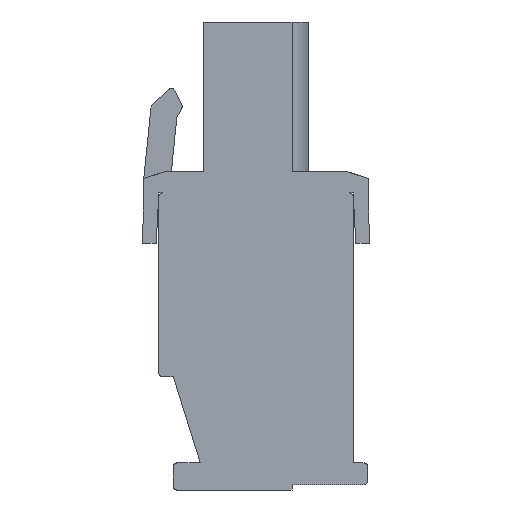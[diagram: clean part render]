
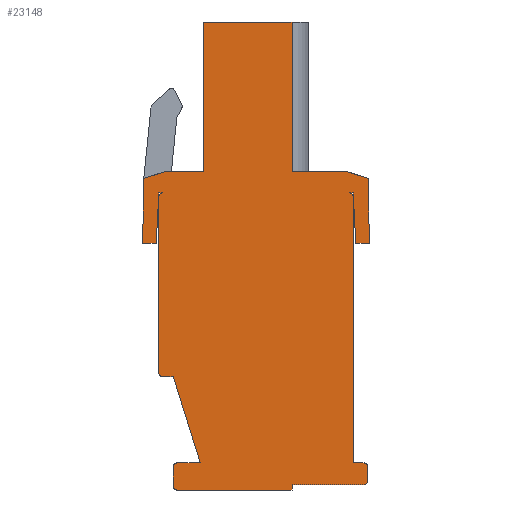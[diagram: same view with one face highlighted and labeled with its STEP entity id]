
A CAD part, left-side view. The second image highlights one B-rep face of the part: STEP entity #23148.
In plain terms, the highlighted planar face has unit normal (-1, 0, 0).
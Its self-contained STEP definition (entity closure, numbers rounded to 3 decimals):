
#1=CARTESIAN_POINT('',(-10.16,-5.2,-1.4));
#2=DIRECTION('',(-1.,0.,0.));
#3=DIRECTION('',(0.,-1.,0.));
#4=AXIS2_PLACEMENT_3D('',#1,#2,#3);
#6=CARTESIAN_POINT('',(-10.16,-6.,-16.4));
#7=DIRECTION('',(-1.,0.,0.));
#8=DIRECTION('',(0.,-1.,0.));
#9=AXIS2_PLACEMENT_3D('',#6,#7,#8);
#11=CARTESIAN_POINT('',(-10.16,-6.,-17.2));
#12=DIRECTION('',(-1.,0.,0.));
#13=DIRECTION('',(0.,0.,-1.));
#14=AXIS2_PLACEMENT_3D('',#11,#12,#13);
#16=CARTESIAN_POINT('',(-10.16,4.4,-17.5));
#17=DIRECTION('',(-1.,0.,0.));
#18=DIRECTION('',(0.,1.,0.));
#19=AXIS2_PLACEMENT_3D('',#16,#17,#18);
#21=CARTESIAN_POINT('',(-10.16,4.4,-16.4));
#22=DIRECTION('',(-1.,0.,0.));
#23=DIRECTION('',(0.,0.,1.));
#24=AXIS2_PLACEMENT_3D('',#21,#22,#23);
#26=DIRECTION('',(0.,-0.298,-0.954));
#27=VECTOR('',#26,5.029);
#28=CARTESIAN_POINT('',(-10.16,4.6,-11.4));
#29=LINE('',#28,#27);
#30=CARTESIAN_POINT('',(-10.16,5.2,-11.2));
#31=DIRECTION('',(-1.,0.,0.));
#32=DIRECTION('',(0.,1.,0.));
#33=AXIS2_PLACEMENT_3D('',#30,#31,#32);
#35=CARTESIAN_POINT('',(-10.16,5.2,-1.4));
#36=DIRECTION('',(-1.,0.,0.));
#37=DIRECTION('',(0.,0.,1.));
#38=AXIS2_PLACEMENT_3D('',#35,#36,#37);
#40=DIRECTION('',(0.,-0.052,0.999));
#41=VECTOR('',#40,2.804);
#42=CARTESIAN_POINT('',(-10.16,5.547,-4.));
#43=LINE('',#42,#41);
#44=DIRECTION('',(0.,0.017,-1.));
#45=VECTOR('',#44,3.601);
#46=CARTESIAN_POINT('',(-10.16,6.234,-0.4));
#47=LINE('',#46,#45);
#48=DIRECTION('',(0.,0.949,-0.316));
#49=VECTOR('',#48,1.265);
#50=CARTESIAN_POINT('',(-10.16,5.034,0.));
#51=LINE('',#50,#49);
#52=DIRECTION('',(0.,0.949,0.316));
#53=VECTOR('',#52,1.265);
#54=CARTESIAN_POINT('',(-10.16,-6.234,-0.4));
#55=LINE('',#54,#53);
#56=DIRECTION('',(0.,0.017,1.));
#57=VECTOR('',#56,3.601);
#58=CARTESIAN_POINT('',(-10.16,-6.297,-4.));
#59=LINE('',#58,#57);
#60=DIRECTION('',(0.,-0.052,-0.999));
#61=VECTOR('',#60,2.804);
#62=CARTESIAN_POINT('',(-10.16,-5.4,-1.2));
#63=LINE('',#62,#61);
#88=DIRECTION('',(0.,1.,0.));
#89=VECTOR('',#88,0.2);
#90=CARTESIAN_POINT('',(-10.16,5.2,-1.2));
#91=LINE('',#90,#89);
#92=DIRECTION('',(0.,1.,0.));
#93=VECTOR('',#92,0.2);
#94=CARTESIAN_POINT('',(-10.16,-5.4,-1.2));
#95=LINE('',#94,#93);
#463=DIRECTION('',(0.,-1.,0.));
#464=VECTOR('',#463,4.9);
#465=CARTESIAN_POINT('',(-10.16,2.9,8.3));
#466=LINE('',#465,#464);
#702=DIRECTION('',(0.,-1.,0.));
#703=VECTOR('',#702,2.134);
#704=CARTESIAN_POINT('',(-10.16,5.034,0.));
#705=LINE('',#704,#703);
#790=DIRECTION('',(0.,1.,0.));
#791=VECTOR('',#790,0.75);
#792=CARTESIAN_POINT('',(-10.16,5.547,-4.));
#793=LINE('',#792,#791);
#1233=DIRECTION('',(0.,0.,1.));
#1234=VECTOR('',#1233,9.8);
#1235=CARTESIAN_POINT('',(-10.16,5.4,-11.2));
#1236=LINE('',#1235,#1234);
#4020=DIRECTION('',(0.,1.,0.));
#4021=VECTOR('',#4020,6.4);
#4022=CARTESIAN_POINT('',(-10.16,-2.,-17.7));
#4023=LINE('',#4022,#4021);
#13311=DIRECTION('',(0.,0.,-1.));
#13312=VECTOR('',#13311,0.3);
#13313=CARTESIAN_POINT('',(-10.16,-2.,-17.4));
#13314=LINE('',#13313,#13312);
#13323=DIRECTION('',(0.,1.,0.));
#13324=VECTOR('',#13323,4.);
#13325=CARTESIAN_POINT('',(-10.16,-6.,-17.4));
#13326=LINE('',#13325,#13324);
#13339=DIRECTION('',(0.,0.,-1.));
#13340=VECTOR('',#13339,0.8);
#13341=CARTESIAN_POINT('',(-10.16,-6.2,-16.4));
#13342=LINE('',#13341,#13340);
#13355=DIRECTION('',(0.,-1.,0.));
#13356=VECTOR('',#13355,0.6);
#13357=CARTESIAN_POINT('',(-10.16,-5.4,-16.2));
#13358=LINE('',#13357,#13356);
#13371=DIRECTION('',(0.,0.,-1.));
#13372=VECTOR('',#13371,14.8);
#13373=CARTESIAN_POINT('',(-10.16,-5.4,-1.4));
#13374=LINE('',#13373,#13372);
#13611=DIRECTION('',(0.,0.,1.));
#13612=VECTOR('',#13611,1.1);
#13613=CARTESIAN_POINT('',(-10.16,4.6,-17.5));
#13614=LINE('',#13613,#13612);
#13623=DIRECTION('',(0.,-1.,0.));
#13624=VECTOR('',#13623,1.3);
#13625=CARTESIAN_POINT('',(-10.16,4.4,-16.2));
#13626=LINE('',#13625,#13624);
#13643=DIRECTION('',(0.,1.,0.));
#13644=VECTOR('',#13643,0.6);
#13645=CARTESIAN_POINT('',(-10.16,4.6,-11.4));
#13646=LINE('',#13645,#13644);
#16968=DIRECTION('',(0.,1.,0.));
#16969=VECTOR('',#16968,0.75);
#16970=CARTESIAN_POINT('',(-10.16,-6.297,-4.));
#16971=LINE('',#16970,#16969);
#17006=DIRECTION('',(0.,-1.,0.));
#17007=VECTOR('',#17006,3.034);
#17008=CARTESIAN_POINT('',(-10.16,-2.,0.));
#17009=LINE('',#17008,#17007);
#17059=DIRECTION('',(0.,0.,-1.));
#17060=VECTOR('',#17059,8.3);
#17061=CARTESIAN_POINT('',(-10.16,-2.,8.3));
#17062=LINE('',#17061,#17060);
#17463=DIRECTION('',(0.,0.,1.));
#17464=VECTOR('',#17463,8.3);
#17465=CARTESIAN_POINT('',(-10.16,2.9,0.));
#17466=LINE('',#17465,#17464);
#19378=CARTESIAN_POINT('',(-10.16,5.034,0.));
#19379=CARTESIAN_POINT('',(-10.16,2.9,0.));
#19380=VERTEX_POINT('',#19378);
#19381=VERTEX_POINT('',#19379);
#19382=CARTESIAN_POINT('',(-10.16,2.9,8.3));
#19383=VERTEX_POINT('',#19382);
#19384=CARTESIAN_POINT('',(-10.16,-2.,8.3));
#19385=VERTEX_POINT('',#19384);
#19386=CARTESIAN_POINT('',(-10.16,-2.,0.));
#19387=VERTEX_POINT('',#19386);
#19388=CARTESIAN_POINT('',(-10.16,-5.034,0.));
#19389=VERTEX_POINT('',#19388);
#19390=CARTESIAN_POINT('',(-10.16,-6.234,-0.4));
#19391=VERTEX_POINT('',#19390);
#19392=CARTESIAN_POINT('',(-10.16,-6.297,-4.));
#19393=VERTEX_POINT('',#19392);
#19394=CARTESIAN_POINT('',(-10.16,-5.547,-4.));
#19395=VERTEX_POINT('',#19394);
#19396=CARTESIAN_POINT('',(-10.16,-5.4,-1.2));
#19397=VERTEX_POINT('',#19396);
#19398=CARTESIAN_POINT('',(-10.16,5.547,-4.));
#19399=CARTESIAN_POINT('',(-10.16,5.4,-1.2));
#19400=VERTEX_POINT('',#19398);
#19401=VERTEX_POINT('',#19399);
#19402=CARTESIAN_POINT('',(-10.16,6.297,-4.));
#19403=VERTEX_POINT('',#19402);
#19404=CARTESIAN_POINT('',(-10.16,6.234,-0.4));
#19405=VERTEX_POINT('',#19404);
#21795=CARTESIAN_POINT('',(-10.16,-5.4,-1.4));
#21796=CARTESIAN_POINT('',(-10.16,-5.4,-16.2));
#21797=VERTEX_POINT('',#21795);
#21798=VERTEX_POINT('',#21796);
#21799=CARTESIAN_POINT('',(-10.16,-6.,-16.2));
#21800=VERTEX_POINT('',#21799);
#21801=CARTESIAN_POINT('',(-10.16,-6.2,-16.4));
#21802=VERTEX_POINT('',#21801);
#21803=CARTESIAN_POINT('',(-10.16,-6.2,-17.2));
#21804=VERTEX_POINT('',#21803);
#21805=CARTESIAN_POINT('',(-10.16,-6.,-17.4));
#21806=VERTEX_POINT('',#21805);
#21807=CARTESIAN_POINT('',(-10.16,-2.,-17.4));
#21808=VERTEX_POINT('',#21807);
#21809=CARTESIAN_POINT('',(-10.16,-2.,-17.7));
#21810=VERTEX_POINT('',#21809);
#21811=CARTESIAN_POINT('',(-10.16,4.4,-17.7));
#21812=VERTEX_POINT('',#21811);
#21813=CARTESIAN_POINT('',(-10.16,4.6,-17.5));
#21814=VERTEX_POINT('',#21813);
#21815=CARTESIAN_POINT('',(-10.16,4.6,-16.4));
#21816=VERTEX_POINT('',#21815);
#21817=CARTESIAN_POINT('',(-10.16,4.4,-16.2));
#21818=VERTEX_POINT('',#21817);
#21819=CARTESIAN_POINT('',(-10.16,3.1,-16.2));
#21820=VERTEX_POINT('',#21819);
#21821=CARTESIAN_POINT('',(-10.16,4.6,-11.4));
#21822=VERTEX_POINT('',#21821);
#21823=CARTESIAN_POINT('',(-10.16,5.2,-11.4));
#21824=VERTEX_POINT('',#21823);
#21825=CARTESIAN_POINT('',(-10.16,5.4,-11.2));
#21826=VERTEX_POINT('',#21825);
#21827=CARTESIAN_POINT('',(-10.16,5.4,-1.4));
#21828=VERTEX_POINT('',#21827);
#22953=CARTESIAN_POINT('',(-10.16,-5.2,-1.2));
#22954=VERTEX_POINT('',#22953);
#22955=CARTESIAN_POINT('',(-10.16,5.2,-1.2));
#22956=VERTEX_POINT('',#22955);
#23075=CARTESIAN_POINT('',(-10.16,0.,0.));
#23076=DIRECTION('',(1.,0.,0.));
#23077=DIRECTION('',(0.,-1.,0.));
#23078=AXIS2_PLACEMENT_3D('',#23075,#23076,#23077);
#23079=PLANE('',#23078);
#23081=ORIENTED_EDGE('',*,*,#23080,.T.);
#23083=ORIENTED_EDGE('',*,*,#23082,.F.);
#23085=ORIENTED_EDGE('',*,*,#23084,.T.);
#23087=ORIENTED_EDGE('',*,*,#23086,.T.);
#23089=ORIENTED_EDGE('',*,*,#23088,.F.);
#23091=ORIENTED_EDGE('',*,*,#23090,.T.);
#23093=ORIENTED_EDGE('',*,*,#23092,.F.);
#23095=ORIENTED_EDGE('',*,*,#23094,.T.);
#23097=ORIENTED_EDGE('',*,*,#23096,.T.);
#23099=ORIENTED_EDGE('',*,*,#23098,.T.);
#23101=ORIENTED_EDGE('',*,*,#23100,.F.);
#23103=ORIENTED_EDGE('',*,*,#23102,.T.);
#23105=ORIENTED_EDGE('',*,*,#23104,.F.);
#23107=ORIENTED_EDGE('',*,*,#23106,.T.);
#23109=ORIENTED_EDGE('',*,*,#23108,.F.);
#23111=ORIENTED_EDGE('',*,*,#23110,.T.);
#23113=ORIENTED_EDGE('',*,*,#23112,.F.);
#23115=ORIENTED_EDGE('',*,*,#23114,.T.);
#23117=ORIENTED_EDGE('',*,*,#23116,.F.);
#23119=ORIENTED_EDGE('',*,*,#23118,.T.);
#23121=ORIENTED_EDGE('',*,*,#23120,.F.);
#23123=ORIENTED_EDGE('',*,*,#23122,.T.);
#23125=ORIENTED_EDGE('',*,*,#23124,.F.);
#23127=ORIENTED_EDGE('',*,*,#23126,.F.);
#23129=ORIENTED_EDGE('',*,*,#23128,.T.);
#23131=ORIENTED_EDGE('',*,*,#23130,.T.);
#23133=ORIENTED_EDGE('',*,*,#23132,.T.);
#23135=ORIENTED_EDGE('',*,*,#23134,.T.);
#23137=ORIENTED_EDGE('',*,*,#23136,.T.);
#23139=ORIENTED_EDGE('',*,*,#23138,.F.);
#23141=ORIENTED_EDGE('',*,*,#23140,.F.);
#23143=ORIENTED_EDGE('',*,*,#23142,.T.);
#23145=ORIENTED_EDGE('',*,*,#23144,.F.);
#23146=EDGE_LOOP('',(#23081,#23083,#23085,#23087,#23089,#23091,#23093,#23095,
#23097,#23099,#23101,#23103,#23105,#23107,#23109,#23111,#23113,#23115,#23117,
#23119,#23121,#23123,#23125,#23127,#23129,#23131,#23133,#23135,#23137,#23139,
#23141,#23143,#23145));
#23147=FACE_OUTER_BOUND('',#23146,.F.);
#5=CIRCLE('',#4,0.2);
#10=CIRCLE('',#9,0.2);
#15=CIRCLE('',#14,0.2);
#20=CIRCLE('',#19,0.2);
#25=CIRCLE('',#24,0.2);
#34=CIRCLE('',#33,0.2);
#39=CIRCLE('',#38,0.2);
#23080=EDGE_CURVE('',#19397,#22954,#95,.T.);
#23082=EDGE_CURVE('',#21797,#22954,#5,.T.);
#23084=EDGE_CURVE('',#21797,#21798,#13374,.T.);
#23086=EDGE_CURVE('',#21798,#21800,#13358,.T.);
#23088=EDGE_CURVE('',#21802,#21800,#10,.T.);
#23090=EDGE_CURVE('',#21802,#21804,#13342,.T.);
#23092=EDGE_CURVE('',#21806,#21804,#15,.T.);
#23094=EDGE_CURVE('',#21806,#21808,#13326,.T.);
#23096=EDGE_CURVE('',#21808,#21810,#13314,.T.);
#23098=EDGE_CURVE('',#21810,#21812,#4023,.T.);
#23100=EDGE_CURVE('',#21814,#21812,#20,.T.);
#23102=EDGE_CURVE('',#21814,#21816,#13614,.T.);
#23104=EDGE_CURVE('',#21818,#21816,#25,.T.);
#23106=EDGE_CURVE('',#21818,#21820,#13626,.T.);
#23108=EDGE_CURVE('',#21822,#21820,#29,.T.);
#23110=EDGE_CURVE('',#21822,#21824,#13646,.T.);
#23112=EDGE_CURVE('',#21826,#21824,#34,.T.);
#23114=EDGE_CURVE('',#21826,#21828,#1236,.T.);
#23116=EDGE_CURVE('',#22956,#21828,#39,.T.);
#23118=EDGE_CURVE('',#22956,#19401,#91,.T.);
#23120=EDGE_CURVE('',#19400,#19401,#43,.T.);
#23122=EDGE_CURVE('',#19400,#19403,#793,.T.);
#23124=EDGE_CURVE('',#19405,#19403,#47,.T.);
#23126=EDGE_CURVE('',#19380,#19405,#51,.T.);
#23128=EDGE_CURVE('',#19380,#19381,#705,.T.);
#23130=EDGE_CURVE('',#19381,#19383,#17466,.T.);
#23132=EDGE_CURVE('',#19383,#19385,#466,.T.);
#23134=EDGE_CURVE('',#19385,#19387,#17062,.T.);
#23136=EDGE_CURVE('',#19387,#19389,#17009,.T.);
#23138=EDGE_CURVE('',#19391,#19389,#55,.T.);
#23140=EDGE_CURVE('',#19393,#19391,#59,.T.);
#23142=EDGE_CURVE('',#19393,#19395,#16971,.T.);
#23144=EDGE_CURVE('',#19397,#19395,#63,.T.);
#23148=ADVANCED_FACE('',(#23147),#23079,.F.);
